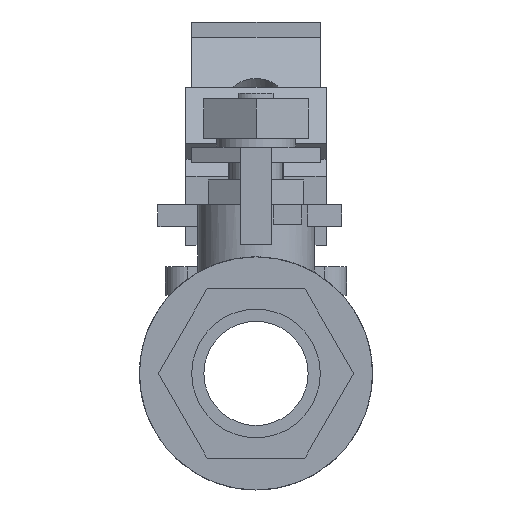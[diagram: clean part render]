
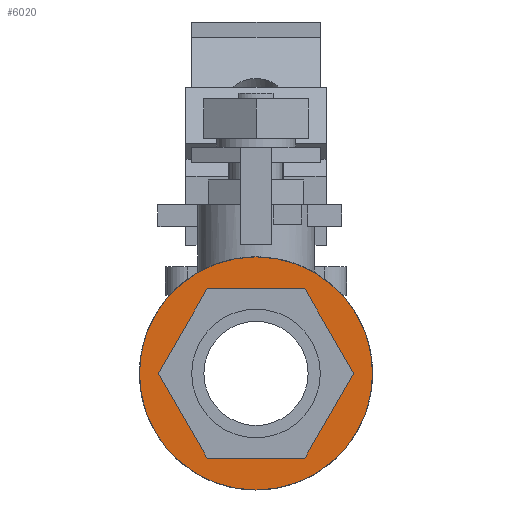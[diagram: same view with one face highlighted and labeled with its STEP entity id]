
A CAD part, left-side view. The second image highlights one B-rep face of the part: STEP entity #6020.
In plain terms, the highlighted planar face has unit normal (-1, 0, 0).
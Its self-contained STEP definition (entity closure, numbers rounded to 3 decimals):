
#5513 = CYLINDRICAL_SURFACE('',#5514,0.66);
#5514 = AXIS2_PLACEMENT_3D('',#5515,#5516,#5517);
#5515 = CARTESIAN_POINT('',(0.445,0.,
    0.));
#5516 = DIRECTION('',(1.,0.,0.));
#5517 = DIRECTION('',(0.,-1.,0.));
#5551 = EDGE_CURVE('',#5552,#5554,#5556,.T.);
#5552 = VERTEX_POINT('',#5553);
#5553 = CARTESIAN_POINT('',(0.35,-0.277,0.479));
#5554 = VERTEX_POINT('',#5555);
#5555 = CARTESIAN_POINT('',(0.35,-0.553,0.));
#5556 = SURFACE_CURVE('',#5557,(#5561,#5573),.PCURVE_S1.);
#5557 = LINE('',#5558,#5559);
#5558 = CARTESIAN_POINT('',(0.35,-0.415,0.24));
#5559 = VECTOR('',#5560,1.);
#5560 = DIRECTION('',(0.,-0.5,-0.866));
#5561 = PCURVE('',#5562,#5567);
#5562 = PLANE('',#5563);
#5563 = AXIS2_PLACEMENT_3D('',#5564,#5565,#5566);
#5564 = CARTESIAN_POINT('',(0.,-0.415,0.24));
#5565 = DIRECTION('',(0.,-0.866,0.5));
#5566 = DIRECTION('',(0.,-0.5,-0.866));
#5567 = DEFINITIONAL_REPRESENTATION('',(#5568),#5572);
#5568 = LINE('',#5569,#5570);
#5569 = CARTESIAN_POINT('',(0.,0.35));
#5570 = VECTOR('',#5571,1.);
#5571 = DIRECTION('',(1.,0.));
#5572 = ( GEOMETRIC_REPRESENTATION_CONTEXT(2) 
PARAMETRIC_REPRESENTATION_CONTEXT() REPRESENTATION_CONTEXT('2D SPACE',''
  ) );
#5573 = PCURVE('',#5574,#5579);
#5574 = PLANE('',#5575);
#5575 = AXIS2_PLACEMENT_3D('',#5576,#5577,#5578);
#5576 = CARTESIAN_POINT('',(0.35,0.,0.
    ));
#5577 = DIRECTION('',(-1.,0.,0.));
#5578 = DIRECTION('',(0.,0.,1.));
#5579 = DEFINITIONAL_REPRESENTATION('',(#5580),#5584);
#5580 = LINE('',#5581,#5582);
#5581 = CARTESIAN_POINT('',(0.24,-0.415));
#5582 = VECTOR('',#5583,1.);
#5583 = DIRECTION('',(-0.866,-0.5));
#5584 = ( GEOMETRIC_REPRESENTATION_CONTEXT(2) 
PARAMETRIC_REPRESENTATION_CONTEXT() REPRESENTATION_CONTEXT('2D SPACE',''
  ) );
#5602 = PLANE('',#5603);
#5603 = AXIS2_PLACEMENT_3D('',#5604,#5605,#5606);
#5604 = CARTESIAN_POINT('',(0.,0.,0.479));
#5605 = DIRECTION('',(0.,0.,1.));
#5606 = DIRECTION('',(0.,-1.,0.));
#5651 = PLANE('',#5652);
#5652 = AXIS2_PLACEMENT_3D('',#5653,#5654,#5655);
#5653 = CARTESIAN_POINT('',(0.,-0.415,-0.24));
#5654 = DIRECTION('',(0.,-0.866,-0.5));
#5655 = DIRECTION('',(0.,0.5,-0.866));
#5666 = EDGE_CURVE('',#5667,#5552,#5669,.T.);
#5667 = VERTEX_POINT('',#5668);
#5668 = CARTESIAN_POINT('',(0.35,0.277,0.479));
#5669 = SURFACE_CURVE('',#5670,(#5674,#5681),.PCURVE_S1.);
#5670 = LINE('',#5671,#5672);
#5671 = CARTESIAN_POINT('',(0.35,0.,0.479));
#5672 = VECTOR('',#5673,1.);
#5673 = DIRECTION('',(0.,-1.,0.));
#5674 = PCURVE('',#5602,#5675);
#5675 = DEFINITIONAL_REPRESENTATION('',(#5676),#5680);
#5676 = LINE('',#5677,#5678);
#5677 = CARTESIAN_POINT('',(0.,0.35));
#5678 = VECTOR('',#5679,1.);
#5679 = DIRECTION('',(1.,0.));
#5680 = ( GEOMETRIC_REPRESENTATION_CONTEXT(2) 
PARAMETRIC_REPRESENTATION_CONTEXT() REPRESENTATION_CONTEXT('2D SPACE',''
  ) );
#5681 = PCURVE('',#5574,#5682);
#5682 = DEFINITIONAL_REPRESENTATION('',(#5683),#5687);
#5683 = LINE('',#5684,#5685);
#5684 = CARTESIAN_POINT('',(0.479,0.));
#5685 = VECTOR('',#5686,1.);
#5686 = DIRECTION('',(0.,-1.));
#5687 = ( GEOMETRIC_REPRESENTATION_CONTEXT(2) 
PARAMETRIC_REPRESENTATION_CONTEXT() REPRESENTATION_CONTEXT('2D SPACE',''
  ) );
#5705 = PLANE('',#5706);
#5706 = AXIS2_PLACEMENT_3D('',#5707,#5708,#5709);
#5707 = CARTESIAN_POINT('',(0.,0.415,0.24));
#5708 = DIRECTION('',(0.,0.866,0.5));
#5709 = DIRECTION('',(0.,-0.5,0.866));
#5742 = EDGE_CURVE('',#5743,#5667,#5745,.T.);
#5743 = VERTEX_POINT('',#5744);
#5744 = CARTESIAN_POINT('',(0.35,0.553,0.));
#5745 = SURFACE_CURVE('',#5746,(#5750,#5757),.PCURVE_S1.);
#5746 = LINE('',#5747,#5748);
#5747 = CARTESIAN_POINT('',(0.35,0.415,0.24));
#5748 = VECTOR('',#5749,1.);
#5749 = DIRECTION('',(0.,-0.5,0.866));
#5750 = PCURVE('',#5705,#5751);
#5751 = DEFINITIONAL_REPRESENTATION('',(#5752),#5756);
#5752 = LINE('',#5753,#5754);
#5753 = CARTESIAN_POINT('',(0.,0.35));
#5754 = VECTOR('',#5755,1.);
#5755 = DIRECTION('',(1.,0.));
#5756 = ( GEOMETRIC_REPRESENTATION_CONTEXT(2) 
PARAMETRIC_REPRESENTATION_CONTEXT() REPRESENTATION_CONTEXT('2D SPACE',''
  ) );
#5757 = PCURVE('',#5574,#5758);
#5758 = DEFINITIONAL_REPRESENTATION('',(#5759),#5763);
#5759 = LINE('',#5760,#5761);
#5760 = CARTESIAN_POINT('',(0.24,0.415));
#5761 = VECTOR('',#5762,1.);
#5762 = DIRECTION('',(0.866,-0.5));
#5763 = ( GEOMETRIC_REPRESENTATION_CONTEXT(2) 
PARAMETRIC_REPRESENTATION_CONTEXT() REPRESENTATION_CONTEXT('2D SPACE',''
  ) );
#5781 = PLANE('',#5782);
#5782 = AXIS2_PLACEMENT_3D('',#5783,#5784,#5785);
#5783 = CARTESIAN_POINT('',(0.,0.415,-0.24));
#5784 = DIRECTION('',(0.,0.866,-0.5));
#5785 = DIRECTION('',(0.,0.5,0.866));
#5818 = EDGE_CURVE('',#5819,#5743,#5821,.T.);
#5819 = VERTEX_POINT('',#5820);
#5820 = CARTESIAN_POINT('',(0.35,0.277,-0.479));
#5821 = SURFACE_CURVE('',#5822,(#5826,#5833),.PCURVE_S1.);
#5822 = LINE('',#5823,#5824);
#5823 = CARTESIAN_POINT('',(0.35,0.415,-0.24));
#5824 = VECTOR('',#5825,1.);
#5825 = DIRECTION('',(0.,0.5,0.866));
#5826 = PCURVE('',#5781,#5827);
#5827 = DEFINITIONAL_REPRESENTATION('',(#5828),#5832);
#5828 = LINE('',#5829,#5830);
#5829 = CARTESIAN_POINT('',(0.,0.35));
#5830 = VECTOR('',#5831,1.);
#5831 = DIRECTION('',(1.,0.));
#5832 = ( GEOMETRIC_REPRESENTATION_CONTEXT(2) 
PARAMETRIC_REPRESENTATION_CONTEXT() REPRESENTATION_CONTEXT('2D SPACE',''
  ) );
#5833 = PCURVE('',#5574,#5834);
#5834 = DEFINITIONAL_REPRESENTATION('',(#5835),#5839);
#5835 = LINE('',#5836,#5837);
#5836 = CARTESIAN_POINT('',(-0.24,0.415));
#5837 = VECTOR('',#5838,1.);
#5838 = DIRECTION('',(0.866,0.5));
#5839 = ( GEOMETRIC_REPRESENTATION_CONTEXT(2) 
PARAMETRIC_REPRESENTATION_CONTEXT() REPRESENTATION_CONTEXT('2D SPACE',''
  ) );
#5857 = PLANE('',#5858);
#5858 = AXIS2_PLACEMENT_3D('',#5859,#5860,#5861);
#5859 = CARTESIAN_POINT('',(0.,0.,-0.479));
#5860 = DIRECTION('',(0.,0.,-1.));
#5861 = DIRECTION('',(0.,1.,0.));
#5894 = EDGE_CURVE('',#5895,#5819,#5897,.T.);
#5895 = VERTEX_POINT('',#5896);
#5896 = CARTESIAN_POINT('',(0.35,-0.277,-0.479));
#5897 = SURFACE_CURVE('',#5898,(#5902,#5909),.PCURVE_S1.);
#5898 = LINE('',#5899,#5900);
#5899 = CARTESIAN_POINT('',(0.35,0.,-0.479));
#5900 = VECTOR('',#5901,1.);
#5901 = DIRECTION('',(0.,1.,0.));
#5902 = PCURVE('',#5857,#5903);
#5903 = DEFINITIONAL_REPRESENTATION('',(#5904),#5908);
#5904 = LINE('',#5905,#5906);
#5905 = CARTESIAN_POINT('',(0.,0.35));
#5906 = VECTOR('',#5907,1.);
#5907 = DIRECTION('',(1.,0.));
#5908 = ( GEOMETRIC_REPRESENTATION_CONTEXT(2) 
PARAMETRIC_REPRESENTATION_CONTEXT() REPRESENTATION_CONTEXT('2D SPACE',''
  ) );
#5909 = PCURVE('',#5574,#5910);
#5910 = DEFINITIONAL_REPRESENTATION('',(#5911),#5915);
#5911 = LINE('',#5912,#5913);
#5912 = CARTESIAN_POINT('',(-0.479,0.));
#5913 = VECTOR('',#5914,1.);
#5914 = DIRECTION('',(0.,1.));
#5915 = ( GEOMETRIC_REPRESENTATION_CONTEXT(2) 
PARAMETRIC_REPRESENTATION_CONTEXT() REPRESENTATION_CONTEXT('2D SPACE',''
  ) );
#5965 = EDGE_CURVE('',#5554,#5895,#5966,.T.);
#5966 = SURFACE_CURVE('',#5967,(#5971,#5978),.PCURVE_S1.);
#5967 = LINE('',#5968,#5969);
#5968 = CARTESIAN_POINT('',(0.35,-0.415,-0.24));
#5969 = VECTOR('',#5970,1.);
#5970 = DIRECTION('',(0.,0.5,-0.866));
#5971 = PCURVE('',#5651,#5972);
#5972 = DEFINITIONAL_REPRESENTATION('',(#5973),#5977);
#5973 = LINE('',#5974,#5975);
#5974 = CARTESIAN_POINT('',(0.,0.35));
#5975 = VECTOR('',#5976,1.);
#5976 = DIRECTION('',(1.,0.));
#5977 = ( GEOMETRIC_REPRESENTATION_CONTEXT(2) 
PARAMETRIC_REPRESENTATION_CONTEXT() REPRESENTATION_CONTEXT('2D SPACE',''
  ) );
#5978 = PCURVE('',#5574,#5979);
#5979 = DEFINITIONAL_REPRESENTATION('',(#5980),#5984);
#5980 = LINE('',#5981,#5982);
#5981 = CARTESIAN_POINT('',(-0.24,-0.415));
#5982 = VECTOR('',#5983,1.);
#5983 = DIRECTION('',(-0.866,0.5));
#5984 = ( GEOMETRIC_REPRESENTATION_CONTEXT(2) 
PARAMETRIC_REPRESENTATION_CONTEXT() REPRESENTATION_CONTEXT('2D SPACE',''
  ) );
#6020 = ADVANCED_FACE('',(#6021,#6029),#5574,.T.);
#6021 = FACE_BOUND('',#6022,.T.);
#6022 = EDGE_LOOP('',(#6023,#6024,#6025,#6026,#6027,#6028));
#6023 = ORIENTED_EDGE('',*,*,#5551,.T.);
#6024 = ORIENTED_EDGE('',*,*,#5965,.T.);
#6025 = ORIENTED_EDGE('',*,*,#5894,.T.);
#6026 = ORIENTED_EDGE('',*,*,#5818,.T.);
#6027 = ORIENTED_EDGE('',*,*,#5742,.T.);
#6028 = ORIENTED_EDGE('',*,*,#5666,.T.);
#6029 = FACE_BOUND('',#6030,.T.);
#6030 = EDGE_LOOP('',(#6031));
#6031 = ORIENTED_EDGE('',*,*,#6032,.T.);
#6032 = EDGE_CURVE('',#6033,#6033,#6035,.T.);
#6033 = VERTEX_POINT('',#6034);
#6034 = CARTESIAN_POINT('',(0.35,-0.66,0.));
#6035 = SURFACE_CURVE('',#6036,(#6041,#6048),.PCURVE_S1.);
#6036 = CIRCLE('',#6037,0.66);
#6037 = AXIS2_PLACEMENT_3D('',#6038,#6039,#6040);
#6038 = CARTESIAN_POINT('',(0.35,0.,0.
    ));
#6039 = DIRECTION('',(-1.,0.,0.));
#6040 = DIRECTION('',(0.,-1.,0.));
#6041 = PCURVE('',#5574,#6042);
#6042 = DEFINITIONAL_REPRESENTATION('',(#6043),#6047);
#6043 = CIRCLE('',#6044,0.66);
#6044 = AXIS2_PLACEMENT_2D('',#6045,#6046);
#6045 = CARTESIAN_POINT('',(0.,0.));
#6046 = DIRECTION('',(0.,-1.));
#6047 = ( GEOMETRIC_REPRESENTATION_CONTEXT(2) 
PARAMETRIC_REPRESENTATION_CONTEXT() REPRESENTATION_CONTEXT('2D SPACE',''
  ) );
#6048 = PCURVE('',#5513,#6049);
#6049 = DEFINITIONAL_REPRESENTATION('',(#6050),#6054);
#6050 = LINE('',#6051,#6052);
#6051 = CARTESIAN_POINT('',(6.283,-0.095));
#6052 = VECTOR('',#6053,1.);
#6053 = DIRECTION('',(-1.,0.));
#6054 = ( GEOMETRIC_REPRESENTATION_CONTEXT(2) 
PARAMETRIC_REPRESENTATION_CONTEXT() REPRESENTATION_CONTEXT('2D SPACE',''
  ) );
